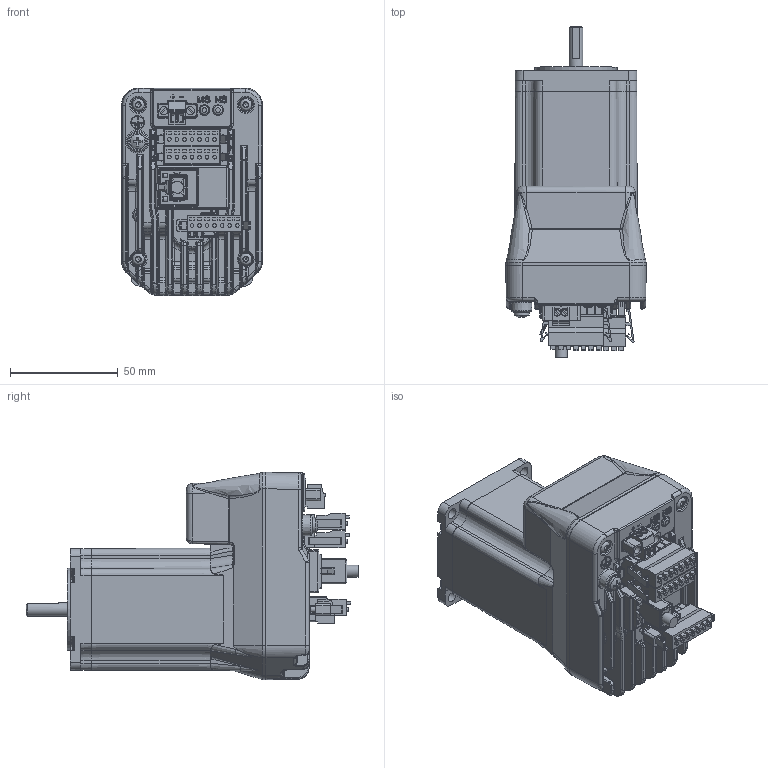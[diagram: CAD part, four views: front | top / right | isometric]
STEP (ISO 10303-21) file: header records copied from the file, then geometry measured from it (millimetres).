
FILE_DESCRIPTION(('LMDXE57-Triple-Stack Web Model.stp'),'1');
FILE_NAME('T:/Kubotek Models For Design Assemblies/On-Line web models/LMD23/LMDXE57-Triple-Stack Web Model.stp', '2013-04-02T15:57:22',('P. Bordua, 04/02/13'), ('Schneider Electric Motion USA'), 'KCM Version 1.1.514.0', 'Kubotek KeyCreator', 'Kubotek KeyCreator 2012 11.3.1');
FILE_SCHEMA(('AUTOMOTIVE_DESIGN'));
Length unit declared in the file: inch
Bounding box: 65.15 x 153.85 x 96.07 mm (x, y, z)
Volume: 457757.6 mm3; surface area: 69788.1 mm2
Topology: 9 solids, 9 shells, 4386 faces, 11224 edges, 7087 vertices
Faces by surface type: plane 2543, cylinder 940, bspline 643, cone 123, torus 77, sphere 55, extrusion 5
Full cylindrical faces by diameter (mm): 1.6 x31, 1.611 x4, 1.686 x28, 2.5 x2, 3.505 x1, 3.792 x4, 5.004 x6, 5.588 x2, 5.6 x4, 6.35 x1, 6.858 x1, 7.62 x1, 16.18 x1, 38.1 x1
Entity records: 152770 total; most frequent: CARTESIAN_POINT 63808, ORIENTED_EDGE 16920, DIRECTION 14614, EDGE_CURVE 8460, VERTEX_POINT 5327, VECTOR 5212, LINE 5207, AXIS2_PLACEMENT_3D 4701
